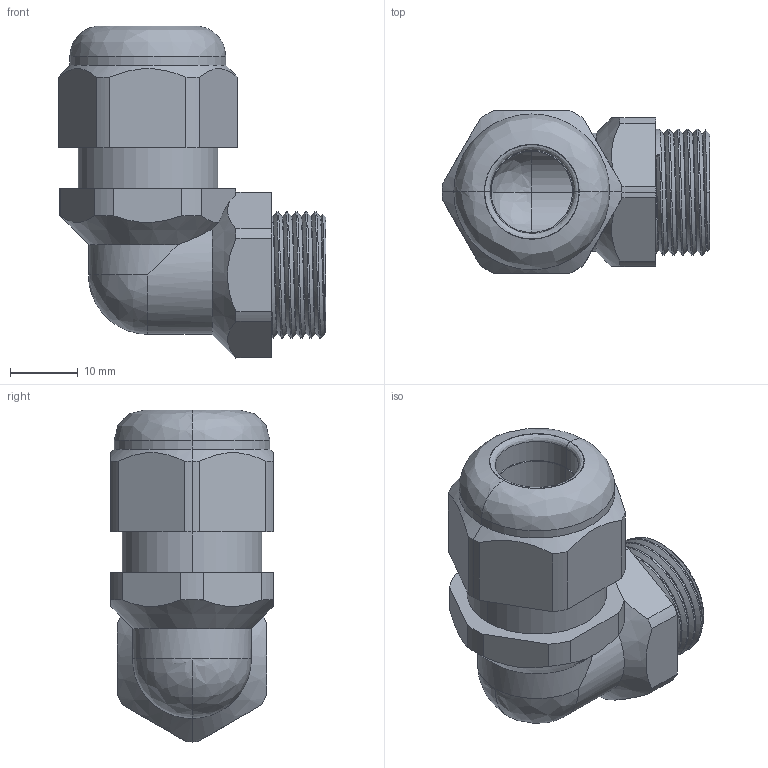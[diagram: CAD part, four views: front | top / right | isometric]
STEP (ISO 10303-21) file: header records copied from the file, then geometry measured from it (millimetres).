
FILE_DESCRIPTION (( 'STEP AP214' ), '1' );
FILE_NAME ('PCGA-13.5-B.STEP', '2015-08-18T20:36:56', ( 'IT' ), ( '' ), 'SwSTEP 2.0', 'SolidWorks 2015', '' );
FILE_SCHEMA (( 'AUTOMOTIVE_DESIGN' ));
Length unit declared in the file: inch
Products named in the file (1): PCGA-13.5-B
Bounding box: 39.55 x 24 x 49 mm (x, y, z)
Volume: 14574.3 mm3; surface area: 7610.7 mm2
Topology: 1 solids, 1 shells, 99 faces, 265 edges, 167 vertices
Faces by surface type: cylinder 47, plane 26, bspline 13, cone 13
Entity records: 5138 total; most frequent: CARTESIAN_POINT 2807, ORIENTED_EDGE 518, DIRECTION 448, EDGE_CURVE 259, AXIS2_PLACEMENT_3D 176, VERTEX_POINT 167, EDGE_LOOP 106, FACE_OUTER_BOUND 99
